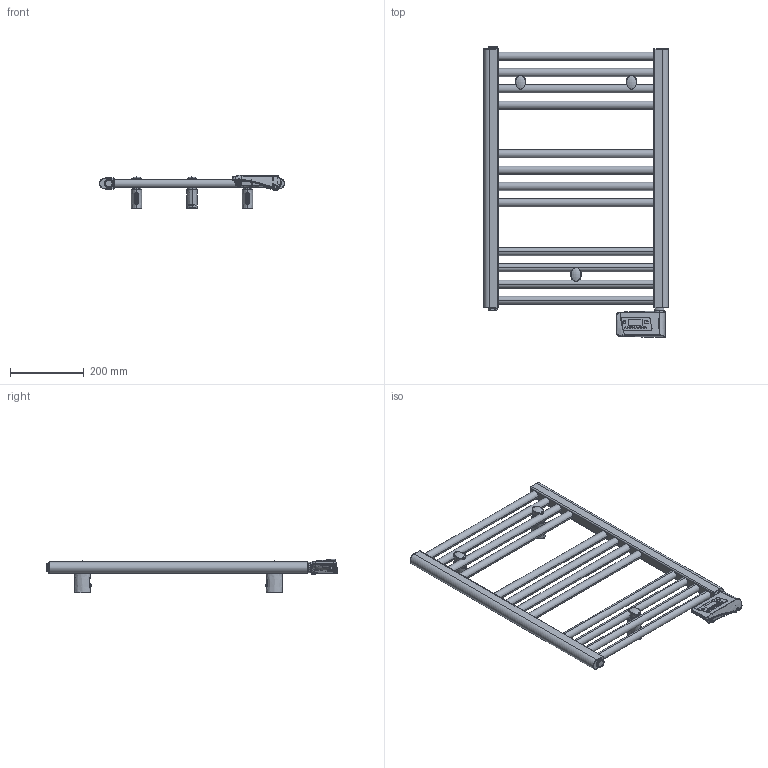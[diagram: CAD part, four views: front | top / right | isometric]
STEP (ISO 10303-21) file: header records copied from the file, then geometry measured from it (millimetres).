
FILE_DESCRIPTION((''),'2;1');
FILE_NAME('3581656100021_3D_SITO_ASM','2026-01-14T09:51:21',('PC132'),(''),'CREO PARAMETRIC BY PTC INC, 2025323','CREO PARAMETRIC BY PTC INC, 2025323','');
FILE_SCHEMA(('AUTOMOTIVE_DESIGN { 1 0 10303 214 1 1 1 1 }'));
Length unit declared in the file: millimetre
Products named in the file (15): 2551650500202_3D_SITO; BICCHIERE_PARETE; PERNO_SCORROVOLE; DADO_QUADRO_M5_X_GIUNTO; DADO_M6_X_GIUNTO; PERNO_SCORREVOLE_ASM; BASETTA_ANTERIORE; 1527181430001; VITE_CR_M5_16; VITE_CR_SV_M6_35; 1102001310058_ASM; 1010181240001; 11170_CODOLO_RES_MOD_3D_SITO; 1035270000042; 3581656100021_3D_SITO_ASM
Assembly tree (17 placements, depth 4):
  3581656100021_3D_SITO_ASM
    2551650500202_3D_SITO
    1102001310058_ASM  x3
      BICCHIERE_PARETE
      PERNO_SCORREVOLE_ASM
        PERNO_SCORROVOLE
        DADO_QUADRO_M5_X_GIUNTO
        DADO_M6_X_GIUNTO
      BASETTA_ANTERIORE
      1527181430001
      VITE_CR_M5_16
      VITE_CR_SV_M6_35
    1010181240001  x2
    11170_CODOLO_RES_MOD_3D_SITO
    1035270000042
Bounding box: 500 x 786.29 x 91.47 mm (x, y, z)
Volume: 3569085.2 mm3; surface area: 688939 mm2
Topology: 33 solids, 47 shells, 5627 faces, 12738 edges, 7210 vertices
Faces by surface type: cylinder 2090, plane 1208, torus 775, bspline 729, sphere 630, cone 123, extrusion 72
Entity records: 178810 total; most frequent: CARTESIAN_POINT 91428, ORIENTED_EDGE 11915, DIRECTION 11893, PRESENTATION_STYLE_ASSIGNMENT 6167, STYLED_ITEM 6039, CURVE_STYLE 6019, EDGE_CURVE 5983, AXIS2_PLACEMENT_3D 4659
